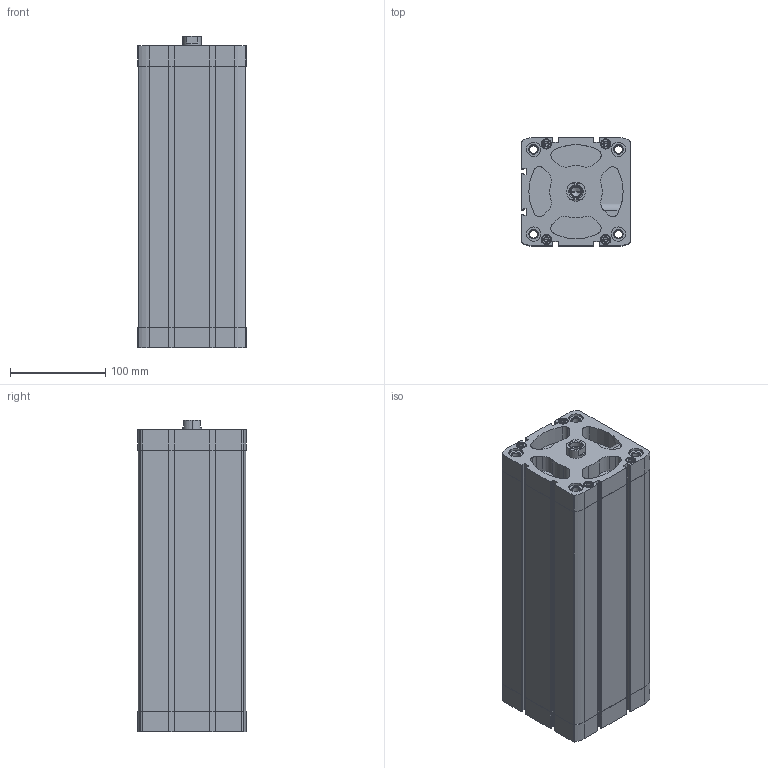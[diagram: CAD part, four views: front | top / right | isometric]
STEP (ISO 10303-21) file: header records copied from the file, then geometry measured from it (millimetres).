
FILE_DESCRIPTION (( 'STEP AP203' ), '1' );
FILE_NAME ('CCN100-250F.STEP', '2020-06-05T18:15:36', ( '' ), ( '' ), 'SwSTEP 2.0', 'SolidWorks 2019', '' );
FILE_SCHEMA (( 'CONFIG_CONTROL_DESIGN' ));
Length unit declared in the file: millimetre
Products named in the file (1): CCN100-250F
Bounding box: 113.5 x 113.5 x 326.8 mm (x, y, z)
Volume: 1866911.9 mm3; surface area: 390810.7 mm2
Topology: 2 solids, 2 shells, 628 faces, 1631 edges, 1043 vertices
Faces by surface type: plane 284, cylinder 270, cone 74
Entity records: 20342 total; most frequent: CARTESIAN_POINT 4507, DIRECTION 3451, ORIENTED_EDGE 3226, EDGE_CURVE 1613, AXIS2_PLACEMENT_3D 1281, VERTEX_POINT 1043, LINE 889, VECTOR 889
